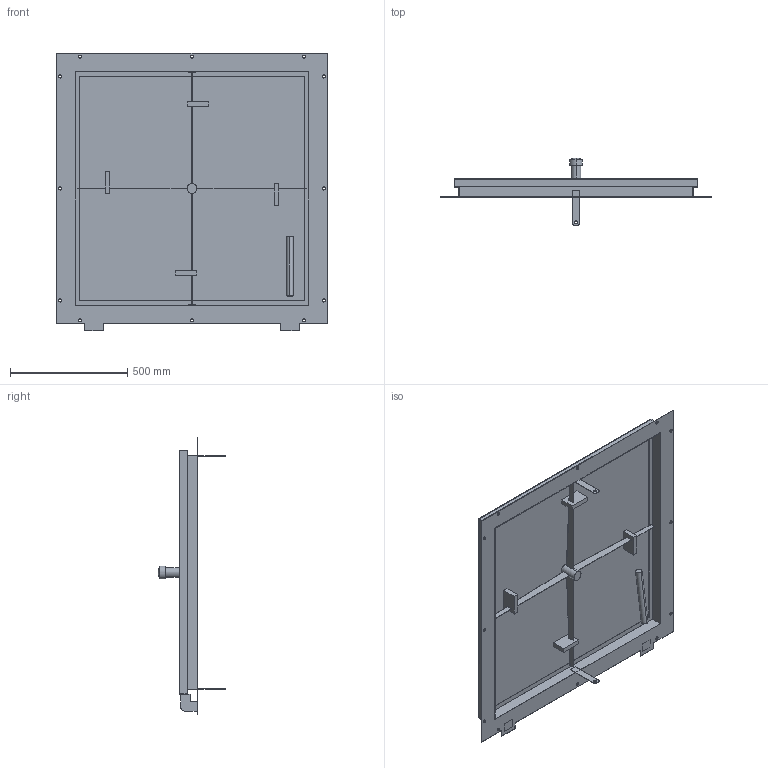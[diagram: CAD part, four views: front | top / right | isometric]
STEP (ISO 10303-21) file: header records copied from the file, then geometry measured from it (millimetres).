
FILE_DESCRIPTION((''),'2;1');
FILE_NAME('017_000112','2018-09-14T',('wj'),('HUBER SE'),'PRO/ENGINEER BY PARAMETRIC TECHNOLOGY CORPORATION, 2017170','PRO/ENGINEER BY PARAMETRIC TECHNOLOGY CORPORATION, 2017170','');
FILE_SCHEMA(('AUTOMOTIVE_DESIGN { 1 0 10303 214 1 1 1 1 }'));
Length unit declared in the file: millimetre
Products named in the file (1): 017_000112
Bounding box: 1155 x 289 x 1185 mm (x, y, z)
Volume: 5110058.3 mm3; surface area: 3994303.9 mm2
Topology: 2 solids, 2 shells, 174 faces, 446 edges, 293 vertices
Faces by surface type: plane 132, cylinder 40, sphere 2
Entity records: 5841 total; most frequent: CARTESIAN_POINT 922, ORIENTED_EDGE 888, DIRECTION 887, EDGE_CURVE 444, VECTOR 362, LINE 362, VERTEX_POINT 293, AXIS2_PLACEMENT_3D 261
